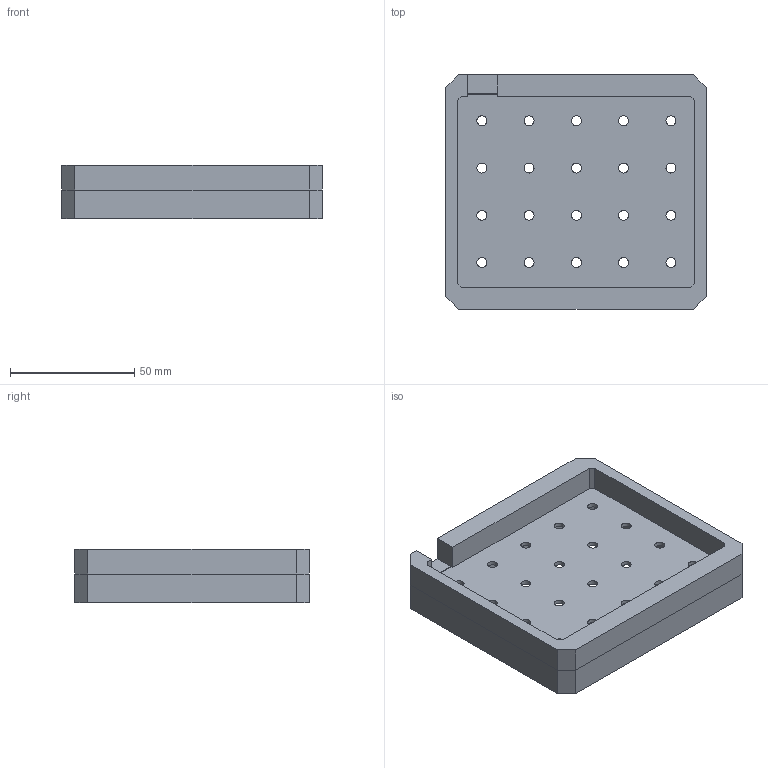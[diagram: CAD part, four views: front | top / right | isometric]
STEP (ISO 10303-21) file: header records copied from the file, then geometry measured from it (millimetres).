
FILE_DESCRIPTION(/* description */ (''),/* implementation_level */ '2;1');
FILE_NAME(/* name */ 'C:/Users/Yamag/OneDrive/デスクトップ/CASE-DAMPAD v9.step',/* time_stamp */ '2021-08-07T01:55:04+09:00',/* author */ (''),/* organization */ (''),/* preprocessor_version */ 'ST-DEVELOPER v18.1',/* originating_system */ 'Autodesk Translation Framework v10.9.0.1377',/* authorisation */ '');
FILE_SCHEMA (('AUTOMOTIVE_DESIGN { 1 0 10303 214 3 1 1 }'));
Length unit declared in the file: millimetre
Products named in the file (2): CASE-DAMPAD; DAMPAD
Assembly tree (1 placements, depth 2):
  CASE-DAMPAD
    DAMPAD
Bounding box: 105.1 x 94.6 x 21.6 mm (x, y, z)
Volume: 65008.5 mm3; surface area: 42325.9 mm2
Topology: 3 solids, 3 shells, 134 faces, 336 edges, 224 vertices
Faces by surface type: plane 104, cylinder 30
Full cylindrical faces by diameter (mm): 2.4 x5, 3.9 x5, 4 x20
Entity records: 4117 total; most frequent: CARTESIAN_POINT 697, ORIENTED_EDGE 672, DIRECTION 670, EDGE_CURVE 336, LINE 276, VECTOR 276, VERTEX_POINT 224, AXIS2_PLACEMENT_3D 197
